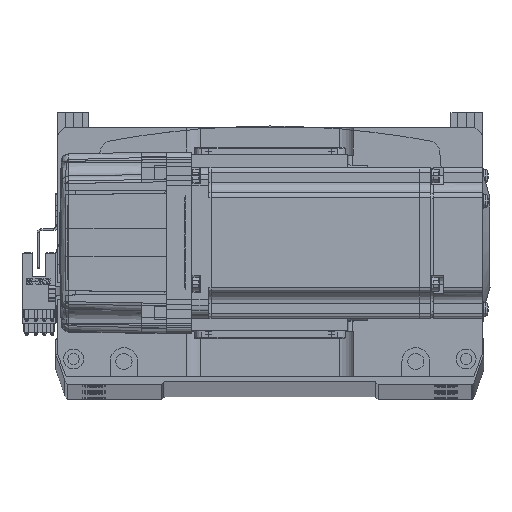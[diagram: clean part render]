
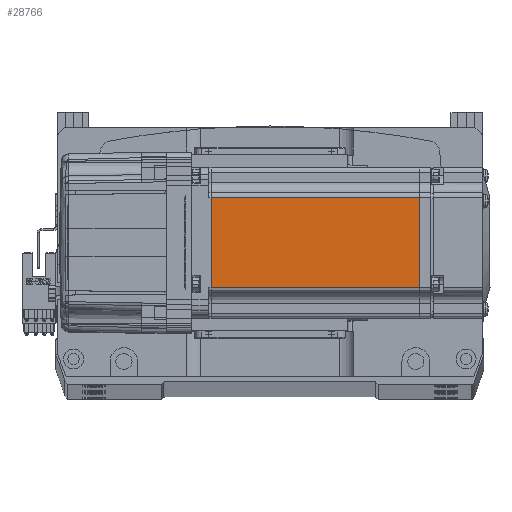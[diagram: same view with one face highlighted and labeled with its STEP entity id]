
A CAD part, top view. The second image highlights one B-rep face of the part: STEP entity #28766.
In plain terms, the highlighted planar face has unit normal (0, 0, 1) as drawn and (0, -1, 0) by its records, which use the part's own axes.
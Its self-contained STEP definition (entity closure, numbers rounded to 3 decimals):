
#166 = EDGE_LOOP ( 'NONE', ( #66408, #5235, #56261, #58006 ) ) ;
#2452 = DIRECTION ( 'NONE',  ( 0., 0., -1. ) ) ;
#3217 = CARTESIAN_POINT ( 'NONE',  ( -7.75, -30., 18. ) ) ;
#5235 = ORIENTED_EDGE ( 'NONE', *, *, #46389, .T. ) ;
#9254 = EDGE_CURVE ( 'NONE', #46860, #16028, #16585, .T. ) ;
#12745 = LINE ( 'NONE', #21599, #43386 ) ;
#13433 = DIRECTION ( 'NONE',  ( 0., -1., 0. ) ) ;
#14826 = VECTOR ( 'NONE', #36144, 1000. ) ;
#16028 = VERTEX_POINT ( 'NONE', #57444 ) ;
#16585 = LINE ( 'NONE', #68983, #14826 ) ;
#21599 = CARTESIAN_POINT ( 'NONE',  ( -6.5, -30., 18. ) ) ;
#27125 = VERTEX_POINT ( 'NONE', #3217 ) ;
#28766 = ADVANCED_FACE ( 'NONE', ( #51905 ), #29782, .T. ) ;
#29782 = PLANE ( 'NONE',  #51079 ) ;
#32757 = DIRECTION ( 'NONE',  ( 0., 0., 1. ) ) ;
#35024 = VERTEX_POINT ( 'NONE', #65851 ) ;
#36144 = DIRECTION ( 'NONE',  ( 1., 0., 0. ) ) ;
#36377 = VECTOR ( 'NONE', #2452, 1000. ) ;
#38379 = EDGE_CURVE ( 'NONE', #16028, #27125, #46290, .T. ) ;
#39162 = DIRECTION ( 'NONE',  ( -1., 0., 0. ) ) ;
#41927 = VECTOR ( 'NONE', #32757, 1000. ) ;
#43386 = VECTOR ( 'NONE', #39162, 1000. ) ;
#44055 = CARTESIAN_POINT ( 'NONE',  ( -7.75, -30., -25. ) ) ;
#46290 = LINE ( 'NONE', #44055, #41927 ) ;
#46389 = EDGE_CURVE ( 'NONE', #27125, #35024, #12745, .T. ) ;
#46860 = VERTEX_POINT ( 'NONE', #67997 ) ;
#46922 = CARTESIAN_POINT ( 'NONE',  ( -6.5, -30., -25. ) ) ;
#51079 = AXIS2_PLACEMENT_3D ( 'NONE', #46922, #13433, #68724 ) ;
#51905 = FACE_OUTER_BOUND ( 'NONE', #166, .T. ) ;
#53288 = CARTESIAN_POINT ( 'NONE',  ( -90.45, -30., -25. ) ) ;
#56261 = ORIENTED_EDGE ( 'NONE', *, *, #61965, .T. ) ;
#57444 = CARTESIAN_POINT ( 'NONE',  ( -7.75, -30., -18. ) ) ;
#58006 = ORIENTED_EDGE ( 'NONE', *, *, #9254, .T. ) ;
#61965 = EDGE_CURVE ( 'NONE', #35024, #46860, #67935, .T. ) ;
#65851 = CARTESIAN_POINT ( 'NONE',  ( -90.45, -30., 18. ) ) ;
#66408 = ORIENTED_EDGE ( 'NONE', *, *, #38379, .T. ) ;
#67935 = LINE ( 'NONE', #53288, #36377 ) ;
#67997 = CARTESIAN_POINT ( 'NONE',  ( -90.45, -30., -18. ) ) ;
#68724 = DIRECTION ( 'NONE',  ( 0., 0., -1. ) ) ;
#68983 = CARTESIAN_POINT ( 'NONE',  ( -6.5, -30., -18. ) ) ;
